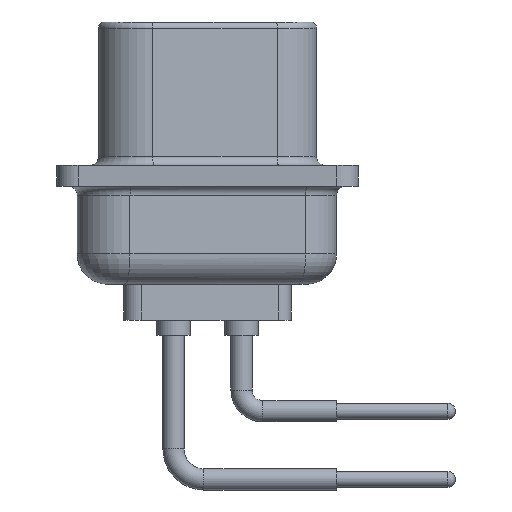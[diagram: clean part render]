
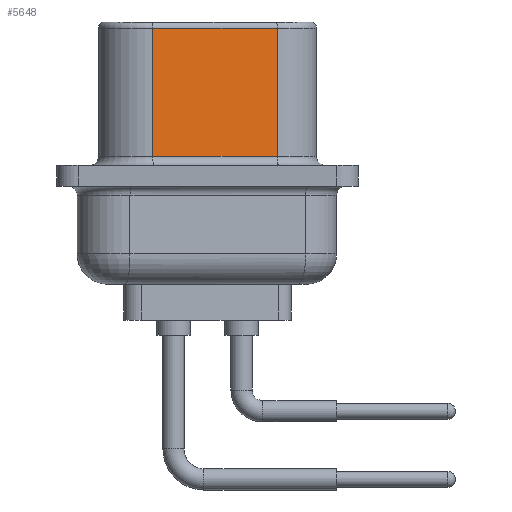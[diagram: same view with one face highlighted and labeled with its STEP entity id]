
A CAD part, left-side view. The second image highlights one B-rep face of the part: STEP entity #5648.
In plain terms, the highlighted planar face has unit normal (-0.987, -0.159, 0).
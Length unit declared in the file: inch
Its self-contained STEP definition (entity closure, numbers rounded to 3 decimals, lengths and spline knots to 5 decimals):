
#88 = EDGE_CURVE ( 'NONE', #2864, #4398, #5227, .T. ) ;
#407 = PLANE ( 'NONE',  #7213 ) ;
#638 = CARTESIAN_POINT ( 'NONE',  ( 0.25869, 0.33826, 0.226 ) ) ;
#766 = VERTEX_POINT ( 'NONE', #1098 ) ;
#779 = ORIENTED_EDGE ( 'NONE', *, *, #2500, .F. ) ;
#796 = CARTESIAN_POINT ( 'NONE',  ( 0.25869, 0.33826, 0.015 ) ) ;
#1020 = CARTESIAN_POINT ( 'NONE',  ( 0.29169, 0.13326, 0.236 ) ) ;
#1098 = CARTESIAN_POINT ( 'NONE',  ( 0.29169, 0.13326, 0.226 ) ) ;
#1511 = ORIENTED_EDGE ( 'NONE', *, *, #88, .T. ) ;
#1690 = DIRECTION ( 'NONE',  ( -0.159, 0.987, 0. ) ) ;
#1762 = CARTESIAN_POINT ( 'NONE',  ( 0.29169, 0.13326, 0.226 ) ) ;
#2194 = VECTOR ( 'NONE', #5370, 39.37008 ) ;
#2452 = VECTOR ( 'NONE', #3026, 39.37008 ) ;
#2500 = EDGE_CURVE ( 'NONE', #766, #4398, #5327, .T. ) ;
#2864 = VERTEX_POINT ( 'NONE', #796 ) ;
#3026 = DIRECTION ( 'NONE',  ( -0.159, 0.987, 0. ) ) ;
#3076 = CARTESIAN_POINT ( 'NONE',  ( 0.25869, 0.33826, 0.236 ) ) ;
#3110 = EDGE_LOOP ( 'NONE', ( #4954, #1511, #779, #5167 ) ) ;
#4045 = EDGE_CURVE ( 'NONE', #766, #5871, #7410, .T. ) ;
#4398 = VERTEX_POINT ( 'NONE', #5502 ) ;
#4789 = CARTESIAN_POINT ( 'NONE',  ( 0.29169, 0.13326, 0.236 ) ) ;
#4954 = ORIENTED_EDGE ( 'NONE', *, *, #8024, .T. ) ;
#5167 = ORIENTED_EDGE ( 'NONE', *, *, #4045, .T. ) ;
#5227 = LINE ( 'NONE', #7864, #6864 ) ;
#5327 = LINE ( 'NONE', #1020, #2194 ) ;
#5370 = DIRECTION ( 'NONE',  ( 0., 0., -1. ) ) ;
#5421 = DIRECTION ( 'NONE',  ( 0.987, 0.159, 0. ) ) ;
#5478 = LINE ( 'NONE', #3076, #7113 ) ;
#5502 = CARTESIAN_POINT ( 'NONE',  ( 0.29169, 0.13326, 0.015 ) ) ;
#5648 = ADVANCED_FACE ( 'NONE', ( #7191 ), #407, .F. ) ;
#5871 = VERTEX_POINT ( 'NONE', #638 ) ;
#6864 = VECTOR ( 'NONE', #7697, 39.37008 ) ;
#6883 = DIRECTION ( 'NONE',  ( 0., 0., -1. ) ) ;
#7113 = VECTOR ( 'NONE', #6883, 39.37008 ) ;
#7191 = FACE_OUTER_BOUND ( 'NONE', #3110, .T. ) ;
#7213 = AXIS2_PLACEMENT_3D ( 'NONE', #4789, #5421, #1690 ) ;
#7410 = LINE ( 'NONE', #1762, #2452 ) ;
#7697 = DIRECTION ( 'NONE',  ( 0.159, -0.987, 0. ) ) ;
#7864 = CARTESIAN_POINT ( 'NONE',  ( 0.29169, 0.13326, 0.015 ) ) ;
#8024 = EDGE_CURVE ( 'NONE', #5871, #2864, #5478, .T. ) ;
